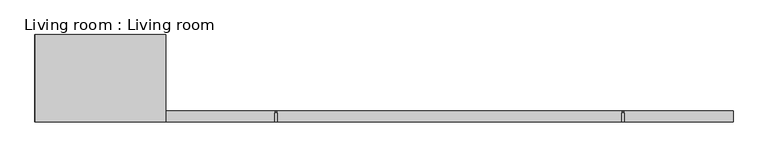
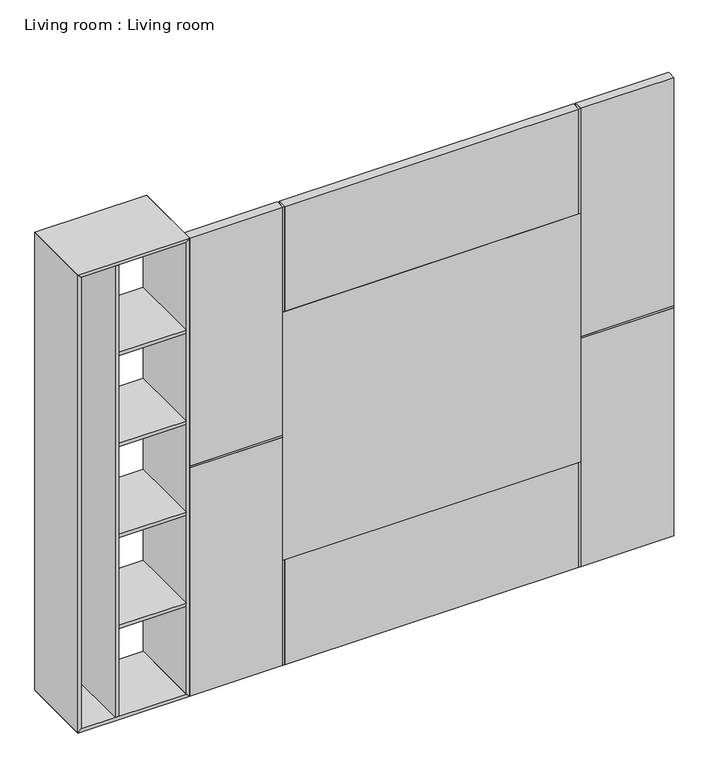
"""IFC4 building model written with IfcOpenShell, lengths in millimetres: proxy geometry, Living room : Living room."""

import ifcopenshell
import ifcopenshell.guid

model = None  # the IFC model being written
_history = None  # IfcOwnerHistory: only IFC2X3 demands one
_inside = {}  # id of a spatial element -> (the spatial element, [elements in it])
_under = {}  # id of a project, library or spatial element -> (it, [spatial elements below it])
_declared = {}  # id of a project -> (the project, [libraries it declares])
_typed = {}  # id of a type object -> (the type object, [elements of that type])
_made_of = {}  # id of a material, layer set ... -> (it, [elements and type objects made of it])


def new_model(schema):
    """Start an empty IFC model of exactly this schema.

    Asked for "IFC4X3", IfcOpenShell would pick the latest addendum, in which some entities
    have other attributes; the version numbers below select the first issue.
    IFC2X3 requires an IfcOwnerHistory on every rooted entity: one is made here for all.
    """
    global model, _history
    if schema == "IFC4X3":
        model = ifcopenshell.file(schema_version=(4, 3, 0, 0))
    else:
        model = ifcopenshell.file(schema=schema)
    _inside.clear()
    _under.clear()
    _declared.clear()
    _typed.clear()
    _made_of.clear()
    _history = None
    if model.schema == "IFC2X3":
        org = make("IfcOrganization", Name="unknown")
        user = make(
            "IfcPersonAndOrganization",
            ThePerson=make("IfcPerson", FamilyName="unknown"),
            TheOrganization=org,
        )
        app = make(
            "IfcApplication",
            ApplicationDeveloper=org,
            Version="unknown",
            ApplicationFullName="unknown",
            ApplicationIdentifier="unknown",
        )
        _history = make(
            "IfcOwnerHistory",
            OwningUser=user,
            OwningApplication=app,
            ChangeAction="ADDED",
            CreationDate=0,
        )
    return model


def make(cls, **values):
    """One entity of the class cls with the attributes given. An attribute that is None is left unset."""
    return model.create_entity(
        cls, **{name: value for name, value in values.items() if value is not None}
    )


def rooted(cls, **values):
    """An entity with a GlobalId (a new one), such as an element, a storey or a relation."""
    return make(cls, GlobalId=ifcopenshell.guid.new(), OwnerHistory=_history, **values)


def si_unit(unit_type, name, prefix=None):
    """IfcSIUnit, for example si_unit("LENGTHUNIT", "METRE", prefix="MILLI")."""
    return make("IfcSIUnit", UnitType=unit_type, Prefix=prefix, Name=name)


def assignment(units):
    """IfcUnitAssignment: the units of a project."""
    return None if units is None else make("IfcUnitAssignment", Units=units)


def point(xyz):
    """IfcCartesianPoint."""
    return None if xyz is None else make("IfcCartesianPoint", Coordinates=xyz)


def direction(xyz):
    """IfcDirection."""
    return None if xyz is None else make("IfcDirection", DirectionRatios=xyz)


def frame(location, z_axis=None, x_axis=None):
    """IfcAxis2Placement3D, a coordinate frame: its origin and axes. An axis left out is left unset."""
    return make(
        "IfcAxis2Placement3D",
        Location=point(location),
        Axis=direction(z_axis),
        RefDirection=direction(x_axis),
    )


def origin():
    """The frame at (0, 0, 0) with its axes left unset."""
    return frame((0.0, 0.0, 0.0))


def origin_with_axes():
    """The frame at (0, 0, 0) with the z axis (0, 0, 1) and the x axis (1, 0, 0) written out."""
    return frame((0.0, 0.0, 0.0), z_axis=(0.0, 0.0, 1.0), x_axis=(1.0, 0.0, 0.0))


def place(relative_to, where):
    """IfcLocalPlacement: puts the frame where relative to a parent placement (None: the world)."""
    return make(
        "IfcLocalPlacement", PlacementRelTo=relative_to, RelativePlacement=where
    )


def context(
    kind, dimensions, precision=None, world=None, true_north=None, identifier=None
):
    """IfcGeometricRepresentationContext, for example the 3D "Model" context."""
    return make(
        "IfcGeometricRepresentationContext",
        ContextIdentifier=identifier,
        ContextType=kind,
        CoordinateSpaceDimension=dimensions,
        Precision=precision,
        WorldCoordinateSystem=world,
        TrueNorth=true_north,
    )


def project(units=None, contexts=None):
    """IfcProject with its units and contexts."""
    return rooted(
        "IfcProject",
        Name="project",
        RepresentationContexts=contexts,
        UnitsInContext=assignment(units),
    )


def spatial(cls, under=None, at=None, **own):
    """A site, building, storey or space (cls), placed at a placement, below another one or the project."""
    s = rooted(cls, ObjectPlacement=at, **own)
    if under is not None:
        _under.setdefault(under.id(), (under, []))[1].append(s)
    return s


def polyline(points):
    """IfcPolyline through the points."""
    return make("IfcPolyline", Points=[point(p) for p in points])


def ellipse_curve(where, semi_axis1, semi_axis2):
    """IfcEllipse in the frame where."""
    return make(
        "IfcEllipse", Position=where, SemiAxis1=semi_axis1, SemiAxis2=semi_axis2
    )


def outline(outer, holes=None, kind="AREA"):
    """IfcArbitraryClosedProfileDef: a profile drawn as a closed curve; with holes, ...WithVoids."""
    if holes is None:
        return make("IfcArbitraryClosedProfileDef", ProfileType=kind, OuterCurve=outer)
    return make(
        "IfcArbitraryProfileDefWithVoids",
        ProfileType=kind,
        OuterCurve=outer,
        InnerCurves=holes,
    )


def extrude(swept, where, along, depth):
    """IfcExtrudedAreaSolid: the profile swept, set in the frame where, extruded along a direction by depth."""
    return make(
        "IfcExtrudedAreaSolid",
        SweptArea=swept,
        Position=where,
        ExtrudedDirection=direction(along),
        Depth=depth,
    )


def shape(context_of_items, identifier, shape_type, items):
    """IfcShapeRepresentation: the items that make up one representation, for example the "Body"."""
    return make(
        "IfcShapeRepresentation",
        ContextOfItems=context_of_items,
        RepresentationIdentifier=identifier,
        RepresentationType=shape_type,
        Items=items,
    )


def source(mapping_origin, context_of_items, identifier, shape_type, items):
    """IfcRepresentationMap: a shape defined once, which mapped items show again and again."""
    return make(
        "IfcRepresentationMap",
        MappingOrigin=mapping_origin,
        MappedRepresentation=shape(context_of_items, identifier, shape_type, items),
    )


def transform(
    local_origin,
    x_axis=None,
    y_axis=None,
    z_axis=None,
    scale=None,
    scale2=None,
    scale3=None,
    uniform=True,
):
    """IfcCartesianTransformationOperator3D, or its non-uniform kind. x_axis, y_axis, z_axis: its Axis1, 2, 3."""
    if uniform:
        return make(
            "IfcCartesianTransformationOperator3D",
            Axis1=direction(x_axis),
            Axis2=direction(y_axis),
            LocalOrigin=point(local_origin),
            Scale=scale,
            Axis3=direction(z_axis),
        )
    return make(
        "IfcCartesianTransformationOperator3DnonUniform",
        Axis1=direction(x_axis),
        Axis2=direction(y_axis),
        LocalOrigin=point(local_origin),
        Scale=scale,
        Axis3=direction(z_axis),
        Scale2=scale2,
        Scale3=scale3,
    )


def mapped(mapping_source, mapping_target):
    """IfcMappedItem: shows the shape of a source again, moved by a transform."""
    return make(
        "IfcMappedItem", MappingSource=mapping_source, MappingTarget=mapping_target
    )


def made_of(thing, what):
    """Note that an element or type object is made of a material, layer set ...; save() writes the relation."""
    if what is not None:
        _made_of.setdefault(what.id(), (what, []))[1].append(thing)
    return thing


def element(
    cls,
    number,
    at=None,
    inside=None,
    cuts=None,
    type_object=None,
    material=None,
    context=None,
    identifier="Body",
    shape_type=None,
    held_by="IfcProductDefinitionShape",
    body=None,
    shapes=None,
    **own,
):
    """One element of the class cls, such as IfcWall. Its Tag is "e" and its number.

    at: its placement. inside: the storey or other place that contains it. cuts: it is an
    opening in that element (IfcRelVoidsElement). A single representation is given by context,
    identifier, shape_type and body (its items); several are given by shapes. held_by: the class
    of the entity that holds the representations. save() writes the other relations.
    """
    e = rooted(cls, Tag="e%d" % number, ObjectPlacement=at, **own)
    if body is not None:
        shapes = [shape(context, identifier, shape_type, body)]
    if shapes is not None:
        e.Representation = make(held_by, Representations=shapes)
    if inside is not None:
        _inside.setdefault(inside.id(), (inside, []))[1].append(e)
    if cuts is not None:
        rooted(
            "IfcRelVoidsElement", RelatingBuildingElement=cuts, RelatedOpeningElement=e
        )
    if type_object is not None:
        _typed.setdefault(type_object.id(), (type_object, []))[1].append(e)
    return made_of(e, material)


def aggregate(whole, parts):
    """IfcRelAggregates: a whole, such as a stair, and the parts it consists of."""
    return rooted("IfcRelAggregates", RelatingObject=whole, RelatedObjects=parts)


def save(model, path):
    """Write the relations noted so far, then the file.

    IfcRelAggregates (storeys below a building ...), IfcRelContainedInSpatialStructure (elements
    in a storey), IfcRelDefinesByType, IfcRelAssociatesMaterial and IfcRelDeclares: one each for
    every whole, place, type object, material and project.
    """
    for whole, parts in _under.values():
        aggregate(whole, parts)
    for where, things in _inside.values():
        rooted(
            "IfcRelContainedInSpatialStructure",
            RelatedElements=things,
            RelatingStructure=where,
        )
    for kind, things in _typed.values():
        rooted("IfcRelDefinesByType", RelatedObjects=things, RelatingType=kind)
    for what, things in _made_of.values():
        rooted("IfcRelAssociatesMaterial", RelatedObjects=things, RelatingMaterial=what)
    for by, libraries in _declared.values():
        rooted("IfcRelDeclares", RelatingContext=by, RelatedDefinitions=libraries)
    model.write(path)


def plane_surface(at):
    """IfcPlane: the flat surface through the origin of the frame at, square to its z axis."""
    return make("IfcPlane", Position=at)


def cylinder_surface(at, radius):
    """IfcCylindricalSurface: all points at the distance radius from the z axis of the frame at."""
    return make("IfcCylindricalSurface", Position=at, Radius=radius)


def advanced_brep(points, edges, surfaces, faces):
    """IfcAdvancedBrep: a solid bounded by faces that lie on surfaces and meet in shared edges.

    An edge is (start, end): straight between two places in points (the first is 0);
    or (start, end, curve); or (start, end, curve, False) where it runs against its curve.
    A face is (place in surfaces, loops), or (place, loops, False) where it looks against
    its surface's normal. A loop lists edges by number (the first is 1), with a minus sign
    where the edge is run from its end to its start. The first loop is the outer one.
    """
    corners = [point(p) for p in points]
    vertices = [make("IfcVertexPoint", VertexGeometry=c) for c in corners]
    made = []
    for start, end, *more in edges:
        made.append(
            make(
                "IfcEdgeCurve",
                EdgeStart=vertices[start],
                EdgeEnd=vertices[end],
                EdgeGeometry=more[0] if more else make("IfcPolyline", Points=[corners[start], corners[end]]),
                SameSense=more[1] if len(more) > 1 else True,
            )
        )
    hull = []
    for where, loops, *sense in faces:
        bounds = []
        for j, loop in enumerate(loops):
            ring = [make("IfcOrientedEdge", EdgeElement=made[abs(k) - 1], Orientation=k > 0) for k in loop]
            bounds.append(
                make(
                    "IfcFaceOuterBound" if j == 0 else "IfcFaceBound",
                    Bound=make("IfcEdgeLoop", EdgeList=ring),
                    Orientation=True,
                )
            )
        hull.append(make("IfcAdvancedFace", Bounds=bounds, FaceSurface=surfaces[where], SameSense=sense[0] if sense else True))
    return make("IfcAdvancedBrep", Outer=make("IfcClosedShell", CfsFaces=hull))


def living_room_living_room_f82f030e(model_context):
    return source(origin(), model_context, "Body", "SolidModel", [
        extrude(outline(polyline([(0.0, -5252.9885987), (0.0, -4653.6135987), (18.0, -4671.6135987), (18.0, -5234.9885987), (0.0, -5252.9885987)])), frame((0.0, -2802.1687653, 0.0), z_axis=(0.0, 1.0, 0.0), x_axis=(0.0, 0.0, 1.0)), (0.0, 0.0, 1.0), 400.0),
        extrude(outline(polyline([(2599.6875, -5253.3010987), (0.3125, -5253.3010987), (18.3125, -5235.3010987), (2581.6875, -5235.3010987), (2599.6875, -5253.3010987)])), frame((0.0, -2802.1687653, 0.0), z_axis=(0.0, 1.0, 0.0), x_axis=(0.0, 0.0, 1.0)), (0.0, 0.0, 1.0), 400.0),
        extrude(outline(polyline([(2599.6875, -4653.3010987), (2581.6875, -4671.3010987), (18.3125, -4671.3010987), (0.3125, -4653.3010987), (2599.6875, -4653.3010987)])), frame((0.0, -2802.1687653, 0.0), z_axis=(0.0, 1.0, 0.0), x_axis=(0.0, 0.0, 1.0)), (0.0, 0.0, 1.0), 400.0),
        extrude(outline(polyline([(2600.0, -5252.9885987), (2582.0, -5234.9885987), (2582.0, -4671.6135987), (2600.0, -4653.6135987), (2600.0, -5252.9885987)])), frame((0.0, -2802.1687653, 0.0), z_axis=(0.0, 1.0, 0.0), x_axis=(0.0, 0.0, 1.0)), (0.0, 0.0, 1.0), 400.0),
        extrude(outline(polyline([(-5053.3010987, -2402.1687653), (-5035.3010987, -2402.1687653), (-5035.3010987, -2802.1687653), (-5053.3010987, -2802.1687653), (-5053.3010987, -2402.1687653)])), frame((0.0, 0.0, 19.0), z_axis=(0.0, 0.0, 1.0), x_axis=(1.0, 0.0, 0.0)), (0.0, 0.0, 1.0), 2562.0),
        extrude(outline(polyline([(-5034.3010987, -2402.1687653), (-4672.3010987, -2402.1687653), (-4672.3010987, -2802.1687653), (-5034.3010987, -2802.1687653), (-5034.3010987, -2402.1687653)])), frame((0.0, 0.0, 516.4), z_axis=(0.0, 0.0, 1.0), x_axis=(1.0, 0.0, 0.0)), (0.0, 0.0, 1.0), 18.0),
        extrude(outline(polyline([(-5034.3010987, -2402.1687653), (-4672.3010987, -2402.1687653), (-4672.3010987, -2802.1687653), (-5034.3010987, -2802.1687653), (-5034.3010987, -2402.1687653)])), frame((0.0, 0.0, 1032.8), z_axis=(0.0, 0.0, 1.0), x_axis=(1.0, 0.0, 0.0)), (0.0, 0.0, 1.0), 18.0),
        extrude(outline(polyline([(-5034.3010987, -2402.1687653), (-4672.3010987, -2402.1687653), (-4672.3010987, -2802.1687653), (-5034.3010987, -2802.1687653), (-5034.3010987, -2402.1687653)])), frame((0.0, 0.0, 1549.2), z_axis=(0.0, 0.0, 1.0), x_axis=(1.0, 0.0, 0.0)), (0.0, 0.0, 1.0), 18.0),
        extrude(outline(polyline([(-5034.3010987, -2402.1687653), (-4672.3010987, -2402.1687653), (-4672.3010987, -2802.1687653), (-5034.3010987, -2802.1687653), (-5034.3010987, -2402.1687653)])), frame((0.0, 0.0, 2065.6), z_axis=(0.0, 0.0, 1.0), x_axis=(1.0, 0.0, 0.0)), (0.0, 0.0, 1.0), 18.0),
        advanced_brep(
        [(-4152.8010987, -2751.6687653, 595.5), (-4153.3010987, -2752.1687653, 595.0), (-4153.3010987, -2752.1687653, 2005.0), (-4152.8010987, -2751.6687653, 2004.5), (-4143.3010987, -2752.1687653, 605.0), (-4143.8010987, -2751.6687653, 604.5), (-4143.8010987, -2751.6687653, 1995.5), (-4143.3010987, -2752.1687653, 1995.0), (-4143.3010987, -2792.1687653, 1995.0), (-4143.3010987, -2792.1687653, 605.0), (-4153.3010987, -2792.1687653, 595.0), (-4153.3010987, -2802.1687653, 595.0), (-4153.3010987, -2802.1687653, 2005.0), (-4153.3010987, -2792.1687653, 2005.0), (-2553.3010987, -2752.1687653, 2005.0), (-2553.8010987, -2751.6687653, 2004.5), (-2562.8010987, -2751.6687653, 1995.5), (-2563.3010987, -2752.1687653, 1995.0), (-2563.3010987, -2792.1687653, 1995.0), (-2553.3010987, -2802.1687653, 2005.0), (-2553.3010987, -2792.1687653, 2005.0), (-2553.3010987, -2752.1687653, 595.0), (-2553.8010987, -2751.6687653, 595.5), (-2562.8010987, -2751.6687653, 604.5), (-2563.3010987, -2752.1687653, 605.0), (-2563.3010987, -2792.1687653, 605.0), (-2553.3010987, -2802.1687653, 595.0), (-2553.3010987, -2792.1687653, 595.0)],
        [
            (0, 1, ellipse_curve(frame((-4152.8010987, -2752.1687653, 595.5), z_axis=(-0.7071067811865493, 0.0, 0.7071067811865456), x_axis=(-0.7071067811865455, 0.0, -0.7071067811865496)), 0.7071068, 0.5)),
            (1, 2),
            (2, 3, ellipse_curve(frame((-4152.8010987, -2752.1687653, 2004.5), z_axis=(-0.7071067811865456, 0.0, -0.7071067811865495), x_axis=(0.7071067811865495, 0.0, -0.7071067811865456)), 0.7071068, 0.5)),
            (3, 0),
            (4, 5, ellipse_curve(frame((-4143.8010987, -2752.1687653, 604.5), z_axis=(-0.7071067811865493, 0.0, 0.7071067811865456), x_axis=(-0.7071067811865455, 0.0, -0.7071067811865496)), 0.7071068, 0.5)),
            (5, 6),
            (6, 7, ellipse_curve(frame((-4143.8010987, -2752.1687653, 1995.5), z_axis=(-0.7071067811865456, 0.0, -0.7071067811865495), x_axis=(0.7071067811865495, 0.0, -0.7071067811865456)), 0.7071068, 0.5)),
            (7, 4),
            (7, 8),
            (8, 9),
            (9, 4),
            (1, 10),
            (10, 11),
            (11, 12),
            (12, 13),
            (13, 2),
            (2, 14),
            (14, 15, ellipse_curve(frame((-2553.8010987, -2752.1687653, 2004.5), z_axis=(-0.7071067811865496, 0.0, 0.7071067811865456), x_axis=(-0.7071067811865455, 0.0, -0.7071067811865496)), 0.7071068, 0.5)),
            (15, 3),
            (6, 16),
            (16, 17, ellipse_curve(frame((-2562.8010987, -2752.1687653, 1995.5), z_axis=(-0.7071067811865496, 0.0, 0.7071067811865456), x_axis=(-0.7071067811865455, 0.0, -0.7071067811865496)), 0.7071068, 0.5)),
            (17, 7),
            (17, 18),
            (18, 8),
            (12, 19),
            (19, 20),
            (20, 14),
            (14, 21),
            (21, 22, ellipse_curve(frame((-2553.8010987, -2752.1687653, 595.5), z_axis=(0.7071067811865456, 0.0, 0.7071067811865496), x_axis=(-0.7071067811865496, 0.0, 0.7071067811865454)), 0.7071068, 0.5)),
            (22, 15),
            (16, 23),
            (23, 24, ellipse_curve(frame((-2562.8010987, -2752.1687653, 604.5), z_axis=(0.7071067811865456, 0.0, 0.7071067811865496), x_axis=(-0.7071067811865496, 0.0, 0.7071067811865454)), 0.7071068, 0.5)),
            (24, 17),
            (24, 25),
            (25, 18),
            (19, 26),
            (26, 27),
            (27, 21),
            (0, 22),
            (21, 1),
            (5, 23),
            (4, 24),
            (9, 25),
            (11, 26),
        ],
        [
            cylinder_surface(frame((-4152.8010987, -2752.1687653, 595.0), z_axis=(0.0, 0.0, -1.0), x_axis=(0.0, -1.0, 0.0)), 0.5),
            cylinder_surface(frame((-4143.8010987, -2752.1687653, 595.0), z_axis=(0.0, 0.0, -1.0), x_axis=(0.0, -1.0, 0.0)), 0.5),
            plane_surface(frame((-4143.3010987, -2752.1687653, 605.0), z_axis=(1.0, 0.0, 0.0), x_axis=(0.0, 0.0, 1.0))),
            plane_surface(frame((-4153.3010987, -2802.1687653, 595.0), z_axis=(-1.0, 0.0, 0.0), x_axis=(0.0, 0.0, 1.0))),
            cylinder_surface(frame((-4153.3010987, -2752.1687653, 2004.5), z_axis=(-1.0, 0.0, 0.0), x_axis=(0.0, -1.0, 0.0)), 0.5),
            cylinder_surface(frame((-4153.3010987, -2752.1687653, 1995.5), z_axis=(-1.0, 0.0, 0.0), x_axis=(0.0, -1.0, 0.0)), 0.5),
            plane_surface(frame((-4143.3010987, -2752.1687653, 1995.0), z_axis=(0.0, 0.0, -1.0), x_axis=(1.0, 0.0, 0.0))),
            plane_surface(frame((-4153.3010987, -2802.1687653, 2005.0), z_axis=(0.0, 0.0, 1.0), x_axis=(1.0, 0.0, 0.0))),
            cylinder_surface(frame((-2553.8010987, -2752.1687653, 2005.0), z_axis=(0.0, 0.0, 1.0), x_axis=(0.0, -1.0, 0.0)), 0.5),
            cylinder_surface(frame((-2562.8010987, -2752.1687653, 2005.0), z_axis=(0.0, 0.0, 1.0), x_axis=(0.0, -1.0, 0.0)), 0.5),
            plane_surface(frame((-2563.3010987, -2752.1687653, 1995.0), z_axis=(-1.0, 0.0, 0.0), x_axis=(0.0, 0.0, -1.0))),
            plane_surface(frame((-2553.3010987, -2802.1687653, 2005.0), z_axis=(1.0, 0.0, 0.0), x_axis=(0.0, 0.0, -1.0))),
            cylinder_surface(frame((-2553.3010987, -2752.1687653, 595.5), z_axis=(1.0, 0.0, 0.0), x_axis=(0.0, -1.0, 0.0)), 0.5),
            plane_surface(frame((-2553.8010987, -2751.6687653, 595.5), z_axis=(0.0, 1.0, 0.0), x_axis=(-1.0, 0.0, 0.0))),
            cylinder_surface(frame((-2553.3010987, -2752.1687653, 604.5), z_axis=(1.0, 0.0, 0.0), x_axis=(0.0, -1.0, 0.0)), 0.5),
            plane_surface(frame((-2563.3010987, -2752.1687653, 605.0), z_axis=(0.0, 0.0, 1.0), x_axis=(-1.0, 0.0, 0.0))),
            plane_surface(frame((-2563.3010987, -2802.1687653, 605.0), z_axis=(0.0, -1.0, 0.0), x_axis=(-1.0, 0.0, 0.0))),
            plane_surface(frame((-2553.3010987, -2802.1687653, 595.0), z_axis=(0.0, 0.0, -1.0), x_axis=(-1.0, 0.0, 0.0))),
            plane_surface(frame((-2553.3010987, -2792.1687653, 1748.070864), z_axis=(0.0, 1.0, 0.0), x_axis=(0.0, 0.0, -1.0))),
        ],
        [
            (0, [[1, 2, 3, 4]]),
            (1, [[5, 6, 7, 8]]),
            (2, [[-8, 9, 10, 11]]),
            (3, [[-2, 12, 13, 14, 15, 16]]),
            (4, [[-3, 17, 18, 19]]),
            (5, [[-7, 20, 21, 22]]),
            (6, [[-22, 23, 24, -9]]),
            (7, [[-17, -16, -15, 25, 26, 27]]),
            (8, [[-18, 28, 29, 30]]),
            (9, [[-21, 31, 32, 33]]),
            (10, [[-33, 34, 35, -23]]),
            (11, [[-28, -27, -26, 36, 37, 38]]),
            (12, [[-1, 39, -29, 40]]),
            (13, [[-4, -19, -30, -39], [-6, 41, -31, -20]]),
            (14, [[-5, 42, -32, -41]]),
            (15, [[-42, -11, 43, -34]]),
            (16, [[-14, 44, -36, -25]]),
            (17, [[-40, -38, -37, -44, -13, -12]]),
            (18, [[-10, -24, -35, -43]]),
        ],
    ),
        extrude(outline(polyline([(-2553.3010987, -2762.1687653), (-2053.3010987, -2762.1687653), (-2053.3010987, -2802.1687653), (-2553.3010987, -2802.1687653), (-2553.3010987, -2762.1687653)])), frame((0.0, 0.0, 1295.0), z_axis=(0.0, 0.0, 1.0), x_axis=(1.0, 0.0, 0.0)), (0.0, 0.0, 1.0), 10.0),
        extrude(outline(polyline([(-2563.3010987, -2762.1687653), (-2553.3010987, -2762.1687653), (-2553.3010987, -2802.1687653), (-2563.3010987, -2802.1687653), (-2563.3010987, -2762.1687653)])), origin_with_axes(), (0.0, 0.0, 1.0), 595.0),
        extrude(outline(polyline([(-4153.3010987, -2762.1687653), (-4143.3010987, -2762.1687653), (-4143.3010987, -2802.1687653), (-4153.3010987, -2802.1687653), (-4153.3010987, -2762.1687653)])), origin_with_axes(), (0.0, 0.0, 1.0), 595.0),
        extrude(outline(polyline([(-4653.3010987, -2762.1687653), (-4153.3010987, -2762.1687653), (-4153.3010987, -2802.1687653), (-4653.3010987, -2802.1687653), (-4653.3010987, -2762.1687653)])), frame((0.0, 0.0, 1295.0), z_axis=(0.0, 0.0, 1.0), x_axis=(1.0, 0.0, 0.0)), (0.0, 0.0, 1.0), 10.0),
        extrude(outline(polyline([(-4153.3010987, -2762.1687653), (-4143.3010987, -2762.1687653), (-4143.3010987, -2802.1687653), (-4153.3010987, -2802.1687653), (-4153.3010987, -2762.1687653)])), frame((0.0, 0.0, 2005.0), z_axis=(0.0, 0.0, 1.0), x_axis=(1.0, 0.0, 0.0)), (0.0, 0.0, 1.0), 595.0),
        extrude(outline(polyline([(-2563.3010987, -2762.1687653), (-2553.3010987, -2762.1687653), (-2553.3010987, -2802.1687653), (-2563.3010987, -2802.1687653), (-2563.3010987, -2762.1687653)])), frame((0.0, 0.0, 2005.0), z_axis=(0.0, 0.0, 1.0), x_axis=(1.0, 0.0, 0.0)), (0.0, 0.0, 1.0), 595.0),
        extrude(outline(polyline([(-2553.3010987, -2752.1687653), (-2053.3010987, -2752.1687653), (-2053.3010987, -2802.1687653), (-2553.3010987, -2802.1687653), (-2553.3010987, -2752.1687653)])), origin_with_axes(), (0.0, 0.0, 1.0), 1295.0),
        extrude(outline(polyline([(-2553.3010987, -2752.1687653), (-2053.3010987, -2752.1687653), (-2053.3010987, -2802.1687653), (-2553.3010987, -2802.1687653), (-2553.3010987, -2752.1687653)])), frame((0.0, 0.0, 1305.0), z_axis=(0.0, 0.0, 1.0), x_axis=(1.0, 0.0, 0.0)), (0.0, 0.0, 1.0), 1295.0),
        extrude(outline(polyline([(-4653.3010987, -2752.1687653), (-4153.3010987, -2752.1687653), (-4153.3010987, -2802.1687653), (-4653.3010987, -2802.1687653), (-4653.3010987, -2752.1687653)])), frame((0.0, 0.0, 1305.0), z_axis=(0.0, 0.0, 1.0), x_axis=(1.0, 0.0, 0.0)), (0.0, 0.0, 1.0), 1295.0),
        extrude(outline(polyline([(-4653.3010987, -2752.1687653), (-4153.3010987, -2752.1687653), (-4153.3010987, -2802.1687653), (-4653.3010987, -2802.1687653), (-4653.3010987, -2752.1687653)])), origin_with_axes(), (0.0, 0.0, 1.0), 1295.0),
        extrude(outline(polyline([(-4143.3010987, -2752.1687653), (-2563.3010987, -2752.1687653), (-2563.3010987, -2802.1687653), (-4143.3010987, -2802.1687653), (-4143.3010987, -2752.1687653)])), frame((0.0, 0.0, 2005.0), z_axis=(0.0, 0.0, 1.0), x_axis=(1.0, 0.0, 0.0)), (0.0, 0.0, 1.0), 595.0),
        extrude(outline(polyline([(-4143.3010987, -2752.1687653), (-2563.3010987, -2752.1687653), (-2563.3010987, -2802.1687653), (-4143.3010987, -2802.1687653), (-4143.3010987, -2752.1687653)])), origin_with_axes(), (0.0, 0.0, 1.0), 595.0),
    ])


if __name__ == "__main__":
    model = new_model("IFC4")
    model_context = context("Model", 3, world=origin())
    ifc_project = project(units=[si_unit("LENGTHUNIT", "METRE", prefix="MILLI")], contexts=[model_context])
    site = spatial("IfcSite", under=ifc_project)
    building = spatial("IfcBuilding", under=site)
    placement = place(None, origin())
    living_room_living_room_shape = living_room_living_room_f82f030e(model_context)
    element("IfcBuildingElementProxy", 1, Name="Living room : Living room", ObjectType="Living room : Living room", at=placement, inside=building, context=model_context, shape_type="MappedRepresentation", body=[
        mapped(living_room_living_room_shape, transform((0.0, 0.0, 0.0), x_axis=(1.0, 0.0, 0.0), y_axis=(0.0, 1.0, 0.0), z_axis=(0.0, 0.0, 1.0))),
    ])
    save(model, "model.ifc")
